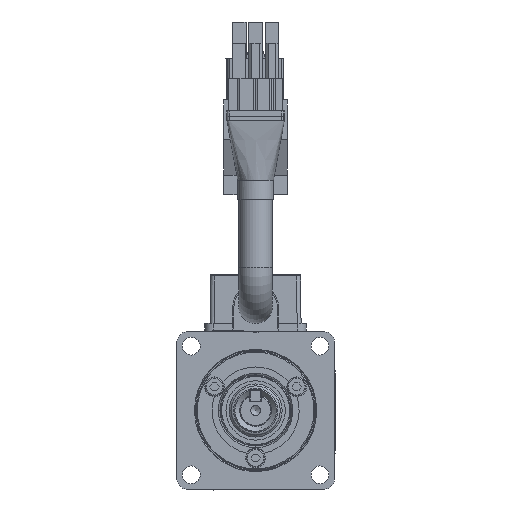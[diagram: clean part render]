
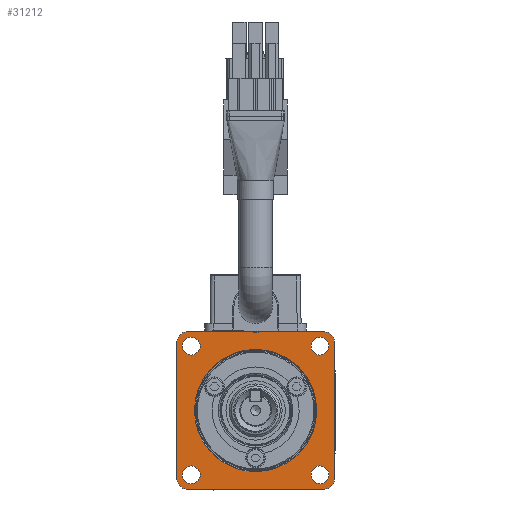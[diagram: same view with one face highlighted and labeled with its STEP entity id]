
A CAD part, left-side view. The second image highlights one B-rep face of the part: STEP entity #31212.
In plain terms, the highlighted planar face has unit normal (-1, 0, 0) as drawn and (0, -1, 0) by its records, which use the part's own axes.
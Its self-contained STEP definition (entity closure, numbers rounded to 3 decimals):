
#1954=CIRCLE('',#33394,2.25);
#1959=CIRCLE('',#33401,2.25);
#1964=CIRCLE('',#33408,2.25);
#1969=CIRCLE('',#33415,2.25);
#1982=CIRCLE('',#33454,3.);
#1983=CIRCLE('',#33456,3.);
#1984=CIRCLE('',#33458,3.);
#1985=CIRCLE('',#33460,3.);
#1986=CIRCLE('',#33462,15.45);
#3600=ORIENTED_EDGE('',*,*,#11888,.T.);
#3601=ORIENTED_EDGE('',*,*,#11886,.F.);
#3602=ORIENTED_EDGE('',*,*,#11863,.T.);
#3603=ORIENTED_EDGE('',*,*,#11885,.F.);
#3604=ORIENTED_EDGE('',*,*,#11872,.T.);
#3605=ORIENTED_EDGE('',*,*,#11884,.F.);
#3606=ORIENTED_EDGE('',*,*,#11881,.F.);
#3607=ORIENTED_EDGE('',*,*,#11887,.F.);
#3608=ORIENTED_EDGE('',*,*,#11842,.T.);
#3609=ORIENTED_EDGE('',*,*,#11822,.F.);
#3610=ORIENTED_EDGE('',*,*,#11808,.F.);
#3611=ORIENTED_EDGE('',*,*,#11815,.F.);
#3612=ORIENTED_EDGE('',*,*,#11829,.F.);
#11808=EDGE_CURVE('',#16078,#16078,#1954,.F.);
#11815=EDGE_CURVE('',#16084,#16084,#1959,.F.);
#11822=EDGE_CURVE('',#16090,#16090,#1964,.F.);
#11829=EDGE_CURVE('',#16096,#16096,#1969,.F.);
#11842=EDGE_CURVE('',#16103,#16102,#18904,.T.);
#11863=EDGE_CURVE('',#16117,#16116,#18917,.T.);
#11872=EDGE_CURVE('',#16119,#16118,#18926,.T.);
#11881=EDGE_CURVE('',#16120,#16121,#18935,.T.);
#11884=EDGE_CURVE('',#16121,#16118,#1982,.F.);
#11885=EDGE_CURVE('',#16119,#16116,#1983,.F.);
#11886=EDGE_CURVE('',#16117,#16102,#1984,.F.);
#11887=EDGE_CURVE('',#16103,#16120,#1985,.F.);
#11888=EDGE_CURVE('',#16122,#16122,#1986,.F.);
#16078=VERTEX_POINT('',#48463);
#16084=VERTEX_POINT('',#48478);
#16090=VERTEX_POINT('',#48493);
#16096=VERTEX_POINT('',#48508);
#16102=VERTEX_POINT('',#48531);
#16103=VERTEX_POINT('',#48533);
#16116=VERTEX_POINT('',#48571);
#16117=VERTEX_POINT('',#48573);
#16118=VERTEX_POINT('',#48588);
#16119=VERTEX_POINT('',#48590);
#16120=VERTEX_POINT('',#48606);
#16121=VERTEX_POINT('',#48608);
#16122=VERTEX_POINT('',#48623);
#18904=LINE('',#48532,#21988);
#18917=LINE('',#48572,#22001);
#18926=LINE('',#48589,#22010);
#18935=LINE('',#48607,#22019);
#21988=VECTOR('',#36825,1000.);
#22001=VECTOR('',#36864,1000.);
#22010=VECTOR('',#36885,1000.);
#22019=VECTOR('',#36908,1000.);
#25273=EDGE_LOOP('',(#3600));
#25274=EDGE_LOOP('',(#3601,#3602,#3603,#3604,#3605,#3606,#3607,#3608));
#25275=EDGE_LOOP('',(#3609));
#25276=EDGE_LOOP('',(#3610));
#25277=EDGE_LOOP('',(#3611));
#25278=EDGE_LOOP('',(#3612));
#27694=FACE_BOUND('',#25273,.T.);
#27695=FACE_BOUND('',#25274,.T.);
#27696=FACE_BOUND('',#25275,.T.);
#27697=FACE_BOUND('',#25276,.T.);
#27698=FACE_BOUND('',#25277,.T.);
#27699=FACE_BOUND('',#25278,.T.);
#29888=PLANE('',#33461);
#31212=ADVANCED_FACE('',(#27694,#27695,#27696,#27697,#27698,#27699),#29888,
 .T.);
#33394=AXIS2_PLACEMENT_3D('',#48462,#36749,#36750);
#33401=AXIS2_PLACEMENT_3D('',#48477,#36765,#36766);
#33408=AXIS2_PLACEMENT_3D('',#48492,#36781,#36782);
#33415=AXIS2_PLACEMENT_3D('',#48507,#36797,#36798);
#33454=AXIS2_PLACEMENT_3D('',#48614,#36917,#36918);
#33456=AXIS2_PLACEMENT_3D('',#48616,#36921,#36922);
#33458=AXIS2_PLACEMENT_3D('',#48618,#36925,#36926);
#33460=AXIS2_PLACEMENT_3D('',#48620,#36929,#36930);
#33461=AXIS2_PLACEMENT_3D('',#48621,#36931,#36932);
#33462=AXIS2_PLACEMENT_3D('',#48622,#36933,#36934);
#36749=DIRECTION('',(0.,1.,0.));
#36750=DIRECTION('',(0.,0.,1.));
#36765=DIRECTION('',(0.,1.,0.));
#36766=DIRECTION('',(0.,0.,1.));
#36781=DIRECTION('',(0.,1.,0.));
#36782=DIRECTION('',(0.,0.,1.));
#36797=DIRECTION('',(0.,1.,0.));
#36798=DIRECTION('',(0.,0.,1.));
#36825=DIRECTION('',(0.,0.,1.));
#36864=DIRECTION('',(-1.,0.,0.));
#36885=DIRECTION('',(0.,0.,-1.));
#36908=DIRECTION('',(-1.,0.,0.));
#36917=DIRECTION('',(0.,-1.,0.));
#36918=DIRECTION('',(0.,0.,-1.));
#36921=DIRECTION('',(0.,-1.,0.));
#36922=DIRECTION('',(0.,0.,-1.));
#36925=DIRECTION('',(0.,-1.,0.));
#36926=DIRECTION('',(0.,0.,-1.));
#36929=DIRECTION('',(0.,-1.,0.));
#36930=DIRECTION('',(0.,0.,-1.));
#36931=DIRECTION('',(0.,-1.,0.));
#36932=DIRECTION('',(0.,0.,-1.));
#36933=DIRECTION('',(0.,-1.,0.));
#36934=DIRECTION('',(0.,0.,-1.));
#48462=CARTESIAN_POINT('',(16.263,0.5,-16.263));
#48463=CARTESIAN_POINT('',(16.263,0.5,-14.013));
#48477=CARTESIAN_POINT('',(-16.263,0.5,-16.263));
#48478=CARTESIAN_POINT('',(-16.263,0.5,-14.013));
#48492=CARTESIAN_POINT('',(16.263,0.5,16.263));
#48493=CARTESIAN_POINT('',(16.263,0.5,18.513));
#48507=CARTESIAN_POINT('',(-16.263,0.5,16.263));
#48508=CARTESIAN_POINT('',(-16.263,0.5,18.513));
#48531=CARTESIAN_POINT('',(20.,0.5,17.));
#48532=CARTESIAN_POINT('',(20.,0.5,-20.));
#48533=CARTESIAN_POINT('',(20.,0.5,-17.));
#48571=CARTESIAN_POINT('',(-17.,0.5,20.));
#48572=CARTESIAN_POINT('',(20.,0.5,20.));
#48573=CARTESIAN_POINT('',(17.,0.5,20.));
#48588=CARTESIAN_POINT('',(-20.,0.5,-17.));
#48589=CARTESIAN_POINT('',(-20.,0.5,20.));
#48590=CARTESIAN_POINT('',(-20.,0.5,17.));
#48606=CARTESIAN_POINT('',(17.,0.5,-20.));
#48607=CARTESIAN_POINT('',(-20.,0.5,-20.));
#48608=CARTESIAN_POINT('',(-17.,0.5,-20.));
#48614=CARTESIAN_POINT('',(-17.,0.5,-17.));
#48616=CARTESIAN_POINT('',(-17.,0.5,17.));
#48618=CARTESIAN_POINT('',(17.,0.5,17.));
#48620=CARTESIAN_POINT('',(17.,0.5,-17.));
#48621=CARTESIAN_POINT('',(0.,0.5,15.5));
#48622=CARTESIAN_POINT('',(0.,0.5,0.));
#48623=CARTESIAN_POINT('',(0.,0.5,-15.45));
